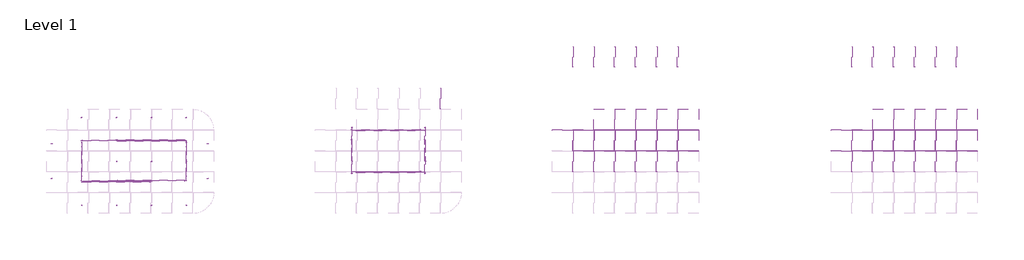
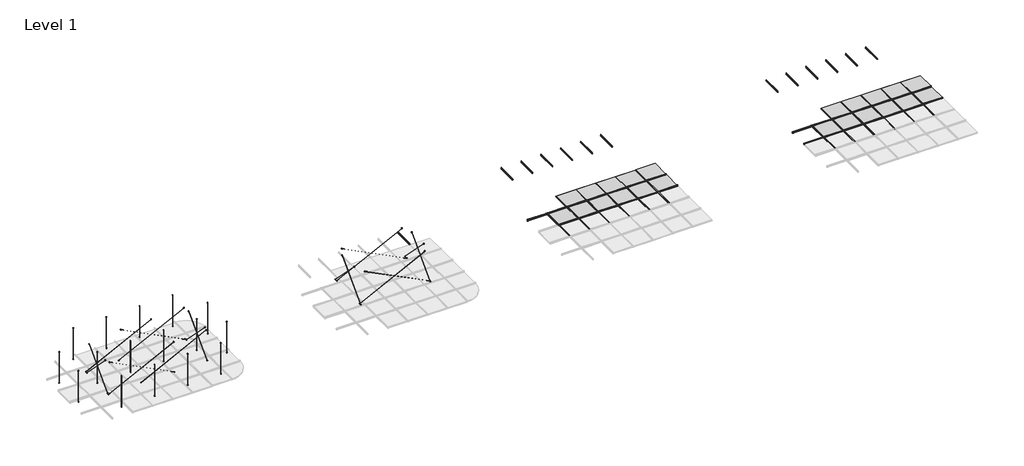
# One storey, part 3 of 3: 64 members, 34 proxies, 22 plates.
"""IFC4 building model written with IfcOpenShell, lengths in millimetres."""

from ifc_helpers import new_model, si_unit, origin, place, context, project, spatial, transform, mapped, element, save
from components import bracing_wire_set_bracing_wire_set_d6569037, bracing_wire_set_bracing_wire_set_f6dc7ab1, bracing_wire_set_shorter_bracing_wire_set_shorter_cc787730, bracing_wire_set_shorter_bracing_wire_set_shorter_f975b5e3, vertical_wire_set_vertical_wire_set_3cbeecf8, circular_mullion_88ff0090, circular_mullion_f9b5ef4a, circular_mullion_cross_tees_bf580255, plate_8db3f6ee

model = new_model("IFC4")

# Units and contexts
model_context = context("Model", 3, world=origin())
ifc_project = project(units=[si_unit("LENGTHUNIT", "METRE", prefix="MILLI")], contexts=[model_context])

# Site, building, storey
site = spatial("IfcSite", under=ifc_project)
building = spatial("IfcBuilding", under=site)
storey = spatial("IfcBuildingStorey", under=building, Name="Level 1", Elevation=0.0)

# Proxies
placement = place(None, origin())
bracing_wire_set_bracing_wire_set_shape = bracing_wire_set_bracing_wire_set_d6569037(model_context)
element("IfcBuildingElementProxy", 1, Name="Bracing Wire Set : Bracing Wire Set", ObjectType="Bracing Wire Set : Bracing Wire Set", at=placement, inside=storey, context=model_context, shape_type="MappedRepresentation", body=[
    mapped(bracing_wire_set_bracing_wire_set_shape, transform((-7814.053468, 7809.4254617, 2087.9107625), x_axis=(0.0, 1.0, 0.0), y_axis=(-1.0, 0.0, 0.0), z_axis=(0.0, 0.0, 1.0))),
])
element("IfcBuildingElementProxy", 2, Name="Bracing Wire Set : Bracing Wire Set", ObjectType="Bracing Wire Set : Bracing Wire Set", at=placement, inside=storey, context=model_context, shape_type="MappedRepresentation", body=[
    mapped(bracing_wire_set_bracing_wire_set_shape, transform((-6814.053468, 8957.8198234, 2087.9107625), x_axis=(0.0, 1.0, 0.0), y_axis=(-1.0, 0.0, 0.0), z_axis=(0.0, 0.0, 1.0))),
])
element("IfcBuildingElementProxy", 3, Name="Bracing Wire Set : Bracing Wire Set", ObjectType="Bracing Wire Set : Bracing Wire Set", at=placement, inside=storey, context=model_context, shape_type="MappedRepresentation", body=[
    mapped(bracing_wire_set_bracing_wire_set_shape, transform((35.973912, 8061.601658, 2087.9107625), x_axis=(0.0, 1.0, 0.0), y_axis=(-1.0, 0.0, 0.0), z_axis=(0.0, 0.0, 1.0))),
])
element("IfcBuildingElementProxy", 4, Name="Bracing Wire Set : Bracing Wire Set", ObjectType="Bracing Wire Set : Bracing Wire Set", at=placement, inside=storey, context=model_context, shape_type="MappedRepresentation", body=[
    mapped(bracing_wire_set_bracing_wire_set_shape, transform((-2064.2590918, 8479.2160981, 2087.9107625), x_axis=(0.0, -1.0, 0.0), y_axis=(1.0, 0.0, 0.0), z_axis=(0.0, 0.0, 1.0))),
])
element("IfcBuildingElementProxy", 5, Name="Bracing Wire Set : Bracing Wire Set", ObjectType="Bracing Wire Set : Bracing Wire Set", at=placement, inside=storey, context=model_context, shape_type="MappedRepresentation", body=[
    mapped(bracing_wire_set_bracing_wire_set_shape, transform((35.946532, 9264.5588511, 2087.9107625), x_axis=(0.0, 1.0, 0.0), y_axis=(-1.0, 0.0, 0.0), z_axis=(0.0, 0.0, 1.0))),
])
element("IfcBuildingElementProxy", 6, Name="Bracing Wire Set : Bracing Wire Set", ObjectType="Bracing Wire Set : Bracing Wire Set", at=placement, inside=storey, context=model_context, shape_type="MappedRepresentation", body=[
    mapped(bracing_wire_set_bracing_wire_set_shape, transform((-2064.2590918, 7278.1654847, 2087.9107625), x_axis=(0.0, -1.0, 0.0), y_axis=(1.0, 0.0, 0.0), z_axis=(0.0, 0.0, 1.0))),
])
bracing_wire_set_bracing_wire_set_2_shape = bracing_wire_set_bracing_wire_set_f6dc7ab1(model_context)
element("IfcBuildingElementProxy", 7, Name="Bracing Wire Set : Bracing Wire Set", ObjectType="Bracing Wire Set : Bracing Wire Set", at=placement, inside=storey, context=model_context, shape_type="MappedRepresentation", body=[
    mapped(bracing_wire_set_bracing_wire_set_2_shape, transform((-9814.5166379, 7780.7429888, 2087.9107625), x_axis=(0.0, 1.0, 0.0), y_axis=(-1.0, 0.0, 0.0), z_axis=(0.0, 0.0, 1.0))),
])
element("IfcBuildingElementProxy", 8, Name="Bracing Wire Set : Bracing Wire Set", ObjectType="Bracing Wire Set : Bracing Wire Set", at=placement, inside=storey, context=model_context, shape_type="MappedRepresentation", body=[
    mapped(bracing_wire_set_bracing_wire_set_2_shape, transform((-9814.5166379, 8971.3421281, 2087.9107625), x_axis=(0.0, 1.0, 0.0), y_axis=(-1.0, 0.0, 0.0), z_axis=(0.0, 0.0, 1.0))),
])
element("IfcBuildingElementProxy", 9, Name="Bracing Wire Set : Bracing Wire Set", ObjectType="Bracing Wire Set : Bracing Wire Set", at=placement, inside=storey, context=model_context, shape_type="MappedRepresentation", body=[
    mapped(bracing_wire_set_bracing_wire_set_2_shape, transform((-8814.5166379, 7822.3944763, 2087.9107625), x_axis=(0.0, 1.0, 0.0), y_axis=(-1.0, 0.0, 0.0), z_axis=(0.0, 0.0, 1.0))),
])
element("IfcBuildingElementProxy", 10, Name="Bracing Wire Set : Bracing Wire Set", ObjectType="Bracing Wire Set : Bracing Wire Set", at=placement, inside=storey, context=model_context, shape_type="MappedRepresentation", body=[
    mapped(bracing_wire_set_bracing_wire_set_2_shape, transform((-8814.5166379, 8985.9114612, 2087.9107625), x_axis=(0.0, 1.0, 0.0), y_axis=(-1.0, 0.0, 0.0), z_axis=(0.0, 0.0, 1.0))),
])
bracing_wire_set_shorter_bracing_wire_set_shorter_shape = bracing_wire_set_shorter_bracing_wire_set_shorter_cc787730(model_context)
element("IfcBuildingElementProxy", 11, Name="Bracing Wire Set shorter : Bracing Wire Set shorter", ObjectType="Bracing Wire Set shorter : Bracing Wire Set shorter", at=placement, inside=storey, context=model_context, shape_type="MappedRepresentation", body=[
    mapped(bracing_wire_set_shorter_bracing_wire_set_shorter_shape, transform((-9413.905381, 7424.5966625, 2087.9107625), x_axis=(1.0, 0.0, 0.0), y_axis=(0.0, 1.0, 0.0), z_axis=(0.0, 0.0, 1.0))),
])
element("IfcBuildingElementProxy", 12, Name="Bracing Wire Set shorter : Bracing Wire Set shorter", ObjectType="Bracing Wire Set shorter : Bracing Wire Set shorter", at=placement, inside=storey, context=model_context, shape_type="MappedRepresentation", body=[
    mapped(bracing_wire_set_shorter_bracing_wire_set_shorter_shape, transform((-6413.8740602, 7424.5966625, 2087.9107625), x_axis=(1.0, 0.0, 0.0), y_axis=(0.0, 1.0, 0.0), z_axis=(0.0, 0.0, 1.0))),
])
element("IfcBuildingElementProxy", 13, Name="Bracing Wire Set shorter : Bracing Wire Set shorter", ObjectType="Bracing Wire Set shorter : Bracing Wire Set shorter", at=placement, inside=storey, context=model_context, shape_type="MappedRepresentation", body=[
    mapped(bracing_wire_set_shorter_bracing_wire_set_shorter_shape, transform((-2464.3841447, 8955.2071374, 2087.9107625), x_axis=(-1.0, 0.0, 0.0), y_axis=(0.0, -1.0, 0.0), z_axis=(0.0, 0.0, 1.0))),
])
element("IfcBuildingElementProxy", 14, Name="Bracing Wire Set shorter : Bracing Wire Set shorter", ObjectType="Bracing Wire Set shorter : Bracing Wire Set shorter", at=placement, inside=storey, context=model_context, shape_type="MappedRepresentation", body=[
    mapped(bracing_wire_set_shorter_bracing_wire_set_shorter_shape, transform((-1663.905381, 7627.5783741, 2087.9107625), x_axis=(1.0, 0.0, 0.0), y_axis=(0.0, 1.0, 0.0), z_axis=(0.0, 0.0, 1.0))),
])
element("IfcBuildingElementProxy", 15, Name="Bracing Wire Set shorter : Bracing Wire Set shorter", ObjectType="Bracing Wire Set shorter : Bracing Wire Set shorter", at=placement, inside=storey, context=model_context, shape_type="MappedRepresentation", body=[
    mapped(bracing_wire_set_shorter_bracing_wire_set_shorter_shape, transform((-364.3865994, 8955.2071374, 2087.9107625), x_axis=(-1.0, 0.0, 0.0), y_axis=(0.0, -1.0, 0.0), z_axis=(0.0, 0.0, 1.0))),
])
element("IfcBuildingElementProxy", 16, Name="Bracing Wire Set shorter : Bracing Wire Set shorter", ObjectType="Bracing Wire Set shorter : Bracing Wire Set shorter", at=placement, inside=storey, context=model_context, shape_type="MappedRepresentation", body=[
    mapped(bracing_wire_set_shorter_bracing_wire_set_shorter_shape, transform((436.0921643, 7627.5783741, 2087.9107625), x_axis=(1.0, 0.0, 0.0), y_axis=(0.0, 1.0, 0.0), z_axis=(0.0, 0.0, 1.0))),
])
bracing_wire_set_shorter_bracing_wire_set_shorter_2_shape = bracing_wire_set_shorter_bracing_wire_set_shorter_f975b5e3(model_context)
element("IfcBuildingElementProxy", 17, Name="Bracing Wire Set shorter : Bracing Wire Set shorter", ObjectType="Bracing Wire Set shorter : Bracing Wire Set shorter", at=placement, inside=storey, context=model_context, shape_type="MappedRepresentation", body=[
    mapped(bracing_wire_set_shorter_bracing_wire_set_shorter_2_shape, transform((-9413.905381, 8517.7524646, 2087.9107625), x_axis=(1.0, 0.0, 0.0), y_axis=(0.0, 1.0, 0.0), z_axis=(0.0, 0.0, 1.0))),
])
element("IfcBuildingElementProxy", 18, Name="Bracing Wire Set shorter : Bracing Wire Set shorter", ObjectType="Bracing Wire Set shorter : Bracing Wire Set shorter", at=placement, inside=storey, context=model_context, shape_type="MappedRepresentation", body=[
    mapped(bracing_wire_set_shorter_bracing_wire_set_shorter_2_shape, transform((-6413.8740602, 8517.7524646, 2087.9107625), x_axis=(1.0, 0.0, 0.0), y_axis=(0.0, 1.0, 0.0), z_axis=(0.0, 0.0, 1.0))),
])
vertical_wire_set_vertical_wire_set_shape = vertical_wire_set_vertical_wire_set_3cbeecf8(model_context)
element("IfcBuildingElementProxy", 19, Name="Vertical Wire Set : Vertical Wire Set", ObjectType="Vertical Wire Set : Vertical Wire Set", at=placement, inside=storey, context=model_context, shape_type="MappedRepresentation", body=[
    mapped(vertical_wire_set_vertical_wire_set_shape, transform((-9814.240742, 8832.3362115, 2087.9107625), x_axis=(0.0, -1.0, 0.0), y_axis=(1.0, 0.0, 0.0), z_axis=(0.0, 0.0, 1.0))),
])
element("IfcBuildingElementProxy", 20, Name="Vertical Wire Set : Vertical Wire Set", ObjectType="Vertical Wire Set : Vertical Wire Set", at=placement, inside=storey, context=model_context, shape_type="MappedRepresentation", body=[
    mapped(vertical_wire_set_vertical_wire_set_shape, transform((-9814.240742, 6312.3362115, 2087.9107625), x_axis=(0.0, -1.0, 0.0), y_axis=(1.0, 0.0, 0.0), z_axis=(0.0, 0.0, 1.0))),
])
element("IfcBuildingElementProxy", 21, Name="Vertical Wire Set : Vertical Wire Set", ObjectType="Vertical Wire Set : Vertical Wire Set", at=placement, inside=storey, context=model_context, shape_type="MappedRepresentation", body=[
    mapped(vertical_wire_set_vertical_wire_set_shape, transform((-9814.240742, 7572.3362115, 2087.9107625), x_axis=(0.0, -1.0, 0.0), y_axis=(1.0, 0.0, 0.0), z_axis=(0.0, 0.0, 1.0))),
])
element("IfcBuildingElementProxy", 22, Name="Vertical Wire Set : Vertical Wire Set", ObjectType="Vertical Wire Set : Vertical Wire Set", at=placement, inside=storey, context=model_context, shape_type="MappedRepresentation", body=[
    mapped(vertical_wire_set_vertical_wire_set_shape, transform((-8814.240742, 8832.3362115, 2087.9107625), x_axis=(0.0, -1.0, 0.0), y_axis=(1.0, 0.0, 0.0), z_axis=(0.0, 0.0, 1.0))),
])
element("IfcBuildingElementProxy", 23, Name="Vertical Wire Set : Vertical Wire Set", ObjectType="Vertical Wire Set : Vertical Wire Set", at=placement, inside=storey, context=model_context, shape_type="MappedRepresentation", body=[
    mapped(vertical_wire_set_vertical_wire_set_shape, transform((-8814.240742, 6312.3362115, 2087.9107625), x_axis=(0.0, -1.0, 0.0), y_axis=(1.0, 0.0, 0.0), z_axis=(0.0, 0.0, 1.0))),
])
element("IfcBuildingElementProxy", 24, Name="Vertical Wire Set : Vertical Wire Set", ObjectType="Vertical Wire Set : Vertical Wire Set", at=placement, inside=storey, context=model_context, shape_type="MappedRepresentation", body=[
    mapped(vertical_wire_set_vertical_wire_set_shape, transform((-8814.240742, 7572.3362115, 2087.9107625), x_axis=(0.0, -1.0, 0.0), y_axis=(1.0, 0.0, 0.0), z_axis=(0.0, 0.0, 1.0))),
])
element("IfcBuildingElementProxy", 25, Name="Vertical Wire Set : Vertical Wire Set", ObjectType="Vertical Wire Set : Vertical Wire Set", at=placement, inside=storey, context=model_context, shape_type="MappedRepresentation", body=[
    mapped(vertical_wire_set_vertical_wire_set_shape, transform((-7813.540742, 8832.3362115, 2087.9107625), x_axis=(0.0, -1.0, 0.0), y_axis=(1.0, 0.0, 0.0), z_axis=(0.0, 0.0, 1.0))),
])
element("IfcBuildingElementProxy", 26, Name="Vertical Wire Set : Vertical Wire Set", ObjectType="Vertical Wire Set : Vertical Wire Set", at=placement, inside=storey, context=model_context, shape_type="MappedRepresentation", body=[
    mapped(vertical_wire_set_vertical_wire_set_shape, transform((-7813.540742, 6312.3362115, 2087.9107625), x_axis=(0.0, -1.0, 0.0), y_axis=(1.0, 0.0, 0.0), z_axis=(0.0, 0.0, 1.0))),
])
element("IfcBuildingElementProxy", 27, Name="Vertical Wire Set : Vertical Wire Set", ObjectType="Vertical Wire Set : Vertical Wire Set", at=placement, inside=storey, context=model_context, shape_type="MappedRepresentation", body=[
    mapped(vertical_wire_set_vertical_wire_set_shape, transform((-7813.540742, 7572.3362115, 2087.9107625), x_axis=(0.0, -1.0, 0.0), y_axis=(1.0, 0.0, 0.0), z_axis=(0.0, 0.0, 1.0))),
])
element("IfcBuildingElementProxy", 28, Name="Vertical Wire Set : Vertical Wire Set", ObjectType="Vertical Wire Set : Vertical Wire Set", at=placement, inside=storey, context=model_context, shape_type="MappedRepresentation", body=[
    mapped(vertical_wire_set_vertical_wire_set_shape, transform((-6813.540742, 8832.3362115, 2087.9107625), x_axis=(0.0, -1.0, 0.0), y_axis=(1.0, 0.0, 0.0), z_axis=(0.0, 0.0, 1.0))),
])
element("IfcBuildingElementProxy", 29, Name="Vertical Wire Set : Vertical Wire Set", ObjectType="Vertical Wire Set : Vertical Wire Set", at=placement, inside=storey, context=model_context, shape_type="MappedRepresentation", body=[
    mapped(vertical_wire_set_vertical_wire_set_shape, transform((-6813.540742, 6312.3362115, 2087.9107625), x_axis=(0.0, -1.0, 0.0), y_axis=(1.0, 0.0, 0.0), z_axis=(0.0, 0.0, 1.0))),
])
element("IfcBuildingElementProxy", 30, Name="Vertical Wire Set : Vertical Wire Set", ObjectType="Vertical Wire Set : Vertical Wire Set", at=placement, inside=storey, context=model_context, shape_type="MappedRepresentation", body=[
    mapped(vertical_wire_set_vertical_wire_set_shape, transform((-6813.540742, 7572.3362115, 2087.9107625), x_axis=(0.0, -1.0, 0.0), y_axis=(1.0, 0.0, 0.0), z_axis=(0.0, 0.0, 1.0))),
])
element("IfcBuildingElementProxy", 31, Name="Vertical Wire Set : Vertical Wire Set", ObjectType="Vertical Wire Set : Vertical Wire Set", at=placement, inside=storey, context=model_context, shape_type="MappedRepresentation", body=[
    mapped(vertical_wire_set_vertical_wire_set_shape, transform((-5789.9953997, 8480.8944678, 2087.9107625), x_axis=(1.0, 0.0, 0.0), y_axis=(0.0, 1.0, 0.0), z_axis=(0.0, 0.0, 1.0))),
])
element("IfcBuildingElementProxy", 32, Name="Vertical Wire Set : Vertical Wire Set", ObjectType="Vertical Wire Set : Vertical Wire Set", at=placement, inside=storey, context=model_context, shape_type="MappedRepresentation", body=[
    mapped(vertical_wire_set_vertical_wire_set_shape, transform((-5789.9953997, 7480.8944678, 2087.9107625), x_axis=(1.0, 0.0, 0.0), y_axis=(0.0, 1.0, 0.0), z_axis=(0.0, 0.0, 1.0))),
])
element("IfcBuildingElementProxy", 33, Name="Vertical Wire Set : Vertical Wire Set", ObjectType="Vertical Wire Set : Vertical Wire Set", at=placement, inside=storey, context=model_context, shape_type="MappedRepresentation", body=[
    mapped(vertical_wire_set_vertical_wire_set_shape, transform((-10269.9953997, 8480.8944678, 2087.9107625), x_axis=(1.0, 0.0, 0.0), y_axis=(0.0, 1.0, 0.0), z_axis=(0.0, 0.0, 1.0))),
])
element("IfcBuildingElementProxy", 34, Name="Vertical Wire Set : Vertical Wire Set", ObjectType="Vertical Wire Set : Vertical Wire Set", at=placement, inside=storey, context=model_context, shape_type="MappedRepresentation", body=[
    mapped(vertical_wire_set_vertical_wire_set_shape, transform((-10269.9953997, 7480.8944678, 2087.9107625), x_axis=(1.0, 0.0, 0.0), y_axis=(0.0, 1.0, 0.0), z_axis=(0.0, 0.0, 1.0))),
])

# Members
circular_mullion_shape = circular_mullion_88ff0090(model_context)
element("IfcMember", 35, ObjectType="Circular Mullion : Main Runners", at=placement, inside=storey, context=model_context, shape_type="MappedRepresentation", body=[
    mapped(circular_mullion_shape, transform((4292.6080689, 8276.1970288, 2001.0), x_axis=(0.0, 1.0, 0.0), y_axis=(0.0, 0.0, -1.0), z_axis=(-1.0, 0.0, 0.0))),
])
element("IfcMember", 36, ObjectType="Circular Mullion : Main Runners", at=placement, inside=storey, context=model_context, shape_type="MappedRepresentation", body=[
    mapped(circular_mullion_shape, transform((4892.6080689, 8276.1970288, 2001.0), x_axis=(0.0, 1.0, 0.0), y_axis=(0.0, 0.0, -1.0), z_axis=(-1.0, 0.0, 0.0))),
])
element("IfcMember", 37, ObjectType="Circular Mullion : Main Runners", at=placement, inside=storey, context=model_context, shape_type="MappedRepresentation", body=[
    mapped(circular_mullion_shape, transform((5492.6080689, 8276.1970288, 2001.0), x_axis=(0.0, 1.0, 0.0), y_axis=(0.0, 0.0, -1.0), z_axis=(-1.0, 0.0, 0.0))),
])
element("IfcMember", 38, ObjectType="Circular Mullion : Main Runners", at=placement, inside=storey, context=model_context, shape_type="MappedRepresentation", body=[
    mapped(circular_mullion_shape, transform((6092.6080689, 8276.1970288, 2001.0), x_axis=(0.0, 1.0, 0.0), y_axis=(0.0, 0.0, -1.0), z_axis=(-1.0, 0.0, 0.0))),
])
element("IfcMember", 39, ObjectType="Circular Mullion : Main Runners", at=placement, inside=storey, context=model_context, shape_type="MappedRepresentation", body=[
    mapped(circular_mullion_shape, transform((6692.6080689, 8276.1970288, 2001.0), x_axis=(0.0, 1.0, 0.0), y_axis=(0.0, 0.0, -1.0), z_axis=(-1.0, 0.0, 0.0))),
])
element("IfcMember", 40, ObjectType="Circular Mullion : Main Runners", at=placement, inside=storey, context=model_context, shape_type="MappedRepresentation", body=[
    mapped(circular_mullion_shape, transform((7292.6080689, 8276.1970288, 2001.0), x_axis=(0.0, 1.0, 0.0), y_axis=(0.0, 0.0, -1.0), z_axis=(-1.0, 0.0, 0.0))),
])
element("IfcMember", 41, ObjectType="Circular Mullion : Main Runners", at=placement, inside=storey, context=model_context, shape_type="MappedRepresentation", body=[
    mapped(circular_mullion_shape, transform((4292.6080689, 8876.1970288, 2001.0), x_axis=(0.0, 1.0, 0.0), y_axis=(0.0, 0.0, -1.0), z_axis=(-1.0, 0.0, 0.0))),
])
element("IfcMember", 42, ObjectType="Circular Mullion : Main Runners", at=placement, inside=storey, context=model_context, shape_type="MappedRepresentation", body=[
    mapped(circular_mullion_shape, transform((4892.6080689, 8876.1970288, 2001.0), x_axis=(0.0, 1.0, 0.0), y_axis=(0.0, 0.0, -1.0), z_axis=(-1.0, 0.0, 0.0))),
])
element("IfcMember", 43, ObjectType="Circular Mullion : Main Runners", at=placement, inside=storey, context=model_context, shape_type="MappedRepresentation", body=[
    mapped(circular_mullion_shape, transform((5492.6080689, 8876.1970288, 2001.0), x_axis=(0.0, 1.0, 0.0), y_axis=(0.0, 0.0, -1.0), z_axis=(-1.0, 0.0, 0.0))),
])
element("IfcMember", 44, ObjectType="Circular Mullion : Main Runners", at=placement, inside=storey, context=model_context, shape_type="MappedRepresentation", body=[
    mapped(circular_mullion_shape, transform((6092.6080689, 8876.1970288, 2001.0), x_axis=(0.0, 1.0, 0.0), y_axis=(0.0, 0.0, -1.0), z_axis=(-1.0, 0.0, 0.0))),
])
element("IfcMember", 45, ObjectType="Circular Mullion : Main Runners", at=placement, inside=storey, context=model_context, shape_type="MappedRepresentation", body=[
    mapped(circular_mullion_shape, transform((6692.6080689, 8876.1970288, 2001.0), x_axis=(0.0, 1.0, 0.0), y_axis=(0.0, 0.0, -1.0), z_axis=(-1.0, 0.0, 0.0))),
])
element("IfcMember", 46, ObjectType="Circular Mullion : Main Runners", at=placement, inside=storey, context=model_context, shape_type="MappedRepresentation", body=[
    mapped(circular_mullion_shape, transform((7292.6080689, 8876.1970288, 2001.0), x_axis=(0.0, 1.0, 0.0), y_axis=(0.0, 0.0, -1.0), z_axis=(-1.0, 0.0, 0.0))),
])
element("IfcMember", 47, ObjectType="Circular Mullion : Main Runners", at=placement, inside=storey, context=model_context, shape_type="MappedRepresentation", body=[
    mapped(circular_mullion_shape, transform((12292.6080689, 8276.1970288, 2001.0), x_axis=(0.0, 1.0, 0.0), y_axis=(0.0, 0.0, -1.0), z_axis=(-1.0, 0.0, 0.0))),
])
element("IfcMember", 48, ObjectType="Circular Mullion : Main Runners", at=placement, inside=storey, context=model_context, shape_type="MappedRepresentation", body=[
    mapped(circular_mullion_shape, transform((12892.6080689, 8276.1970288, 2001.0), x_axis=(0.0, 1.0, 0.0), y_axis=(0.0, 0.0, -1.0), z_axis=(-1.0, 0.0, 0.0))),
])
element("IfcMember", 49, ObjectType="Circular Mullion : Main Runners", at=placement, inside=storey, context=model_context, shape_type="MappedRepresentation", body=[
    mapped(circular_mullion_shape, transform((13492.6080689, 8276.1970288, 2001.0), x_axis=(0.0, 1.0, 0.0), y_axis=(0.0, 0.0, -1.0), z_axis=(-1.0, 0.0, 0.0))),
])
element("IfcMember", 50, ObjectType="Circular Mullion : Main Runners", at=placement, inside=storey, context=model_context, shape_type="MappedRepresentation", body=[
    mapped(circular_mullion_shape, transform((14092.6080689, 8276.1970288, 2001.0), x_axis=(0.0, 1.0, 0.0), y_axis=(0.0, 0.0, -1.0), z_axis=(-1.0, 0.0, 0.0))),
])
element("IfcMember", 51, ObjectType="Circular Mullion : Main Runners", at=placement, inside=storey, context=model_context, shape_type="MappedRepresentation", body=[
    mapped(circular_mullion_shape, transform((14692.6080689, 8276.1970288, 2001.0), x_axis=(0.0, 1.0, 0.0), y_axis=(0.0, 0.0, -1.0), z_axis=(-1.0, 0.0, 0.0))),
])
element("IfcMember", 52, ObjectType="Circular Mullion : Main Runners", at=placement, inside=storey, context=model_context, shape_type="MappedRepresentation", body=[
    mapped(circular_mullion_shape, transform((15292.6080689, 8276.1970288, 2001.0), x_axis=(0.0, 1.0, 0.0), y_axis=(0.0, 0.0, -1.0), z_axis=(-1.0, 0.0, 0.0))),
])
element("IfcMember", 53, ObjectType="Circular Mullion : Main Runners", at=placement, inside=storey, context=model_context, shape_type="MappedRepresentation", body=[
    mapped(circular_mullion_shape, transform((12292.6080689, 8876.1970288, 2001.0), x_axis=(0.0, 1.0, 0.0), y_axis=(0.0, 0.0, -1.0), z_axis=(-1.0, 0.0, 0.0))),
])
element("IfcMember", 54, ObjectType="Circular Mullion : Main Runners", at=placement, inside=storey, context=model_context, shape_type="MappedRepresentation", body=[
    mapped(circular_mullion_shape, transform((12892.6080689, 8876.1970288, 2001.0), x_axis=(0.0, 1.0, 0.0), y_axis=(0.0, 0.0, -1.0), z_axis=(-1.0, 0.0, 0.0))),
])
element("IfcMember", 55, ObjectType="Circular Mullion : Main Runners", at=placement, inside=storey, context=model_context, shape_type="MappedRepresentation", body=[
    mapped(circular_mullion_shape, transform((13492.6080689, 8876.1970288, 2001.0), x_axis=(0.0, 1.0, 0.0), y_axis=(0.0, 0.0, -1.0), z_axis=(-1.0, 0.0, 0.0))),
])
element("IfcMember", 56, ObjectType="Circular Mullion : Main Runners", at=placement, inside=storey, context=model_context, shape_type="MappedRepresentation", body=[
    mapped(circular_mullion_shape, transform((14092.6080689, 8876.1970288, 2001.0), x_axis=(0.0, 1.0, 0.0), y_axis=(0.0, 0.0, -1.0), z_axis=(-1.0, 0.0, 0.0))),
])
element("IfcMember", 57, ObjectType="Circular Mullion : Main Runners", at=placement, inside=storey, context=model_context, shape_type="MappedRepresentation", body=[
    mapped(circular_mullion_shape, transform((14692.6080689, 8876.1970288, 2001.0), x_axis=(0.0, 1.0, 0.0), y_axis=(0.0, 0.0, -1.0), z_axis=(-1.0, 0.0, 0.0))),
])
element("IfcMember", 58, ObjectType="Circular Mullion : Main Runners", at=placement, inside=storey, context=model_context, shape_type="MappedRepresentation", body=[
    mapped(circular_mullion_shape, transform((15292.6080689, 8876.1970288, 2001.0), x_axis=(0.0, 1.0, 0.0), y_axis=(0.0, 0.0, -1.0), z_axis=(-1.0, 0.0, 0.0))),
])
circular_mullion_2_shape = circular_mullion_f9b5ef4a(model_context)
element("IfcMember", 59, ObjectType="Circular Mullion : Main Runners", at=placement, inside=storey, context=model_context, shape_type="MappedRepresentation", body=[
    mapped(circular_mullion_2_shape, transform((3680.7018185, 8876.1970288, 2001.0), x_axis=(0.0, 1.0, 0.0), y_axis=(0.0, 0.0, -1.0), z_axis=(-1.0, 0.0, 0.0))),
])
element("IfcMember", 60, ObjectType="Circular Mullion : Main Runners", at=placement, inside=storey, context=model_context, shape_type="MappedRepresentation", body=[
    mapped(circular_mullion_2_shape, transform((11680.7018185, 8276.1970288, 2001.0), x_axis=(0.0, 1.0, 0.0), y_axis=(0.0, 0.0, -1.0), z_axis=(-1.0, 0.0, 0.0))),
])
element("IfcMember", 61, ObjectType="Circular Mullion : Main Runners", at=placement, inside=storey, context=model_context, shape_type="MappedRepresentation", body=[
    mapped(circular_mullion_2_shape, transform((11680.7018185, 8876.1970288, 2001.0), x_axis=(0.0, 1.0, 0.0), y_axis=(0.0, 0.0, -1.0), z_axis=(-1.0, 0.0, 0.0))),
])
circular_mullion_cross_tees_shape = circular_mullion_cross_tees_bf580255(model_context)
element("IfcMember", 62, ObjectType="Circular Mullion : Cross Tees", at=placement, inside=storey, context=model_context, shape_type="MappedRepresentation", body=[
    mapped(circular_mullion_cross_tees_shape, transform((4280.7018189, 8276.1970288, 2001.0), x_axis=(1.0, 0.0, 0.0), y_axis=(0.0, 0.0, -1.0), z_axis=(0.0, 1.0, 0.0))),
])
element("IfcMember", 63, ObjectType="Circular Mullion : Cross Tees", at=placement, inside=storey, context=model_context, shape_type="MappedRepresentation", body=[
    mapped(circular_mullion_cross_tees_shape, transform((4880.7018189, 8276.1970288, 2001.0), x_axis=(1.0, 0.0, 0.0), y_axis=(0.0, 0.0, -1.0), z_axis=(0.0, 1.0, 0.0))),
])
element("IfcMember", 64, ObjectType="Circular Mullion : Cross Tees", at=placement, inside=storey, context=model_context, shape_type="MappedRepresentation", body=[
    mapped(circular_mullion_cross_tees_shape, transform((5480.7018189, 8276.1970288, 2001.0), x_axis=(1.0, 0.0, 0.0), y_axis=(0.0, 0.0, -1.0), z_axis=(0.0, 1.0, 0.0))),
])
element("IfcMember", 65, ObjectType="Circular Mullion : Cross Tees", at=placement, inside=storey, context=model_context, shape_type="MappedRepresentation", body=[
    mapped(circular_mullion_cross_tees_shape, transform((6080.7018189, 8276.1970288, 2001.0), x_axis=(1.0, 0.0, 0.0), y_axis=(0.0, 0.0, -1.0), z_axis=(0.0, 1.0, 0.0))),
])
element("IfcMember", 66, ObjectType="Circular Mullion : Cross Tees", at=placement, inside=storey, context=model_context, shape_type="MappedRepresentation", body=[
    mapped(circular_mullion_cross_tees_shape, transform((6680.7018189, 8276.1970288, 2001.0), x_axis=(1.0, 0.0, 0.0), y_axis=(0.0, 0.0, -1.0), z_axis=(0.0, 1.0, 0.0))),
])
element("IfcMember", 67, ObjectType="Circular Mullion : Cross Tees", at=placement, inside=storey, context=model_context, shape_type="MappedRepresentation", body=[
    mapped(circular_mullion_cross_tees_shape, transform((7280.7018189, 8276.1970288, 2001.0), x_axis=(1.0, 0.0, 0.0), y_axis=(0.0, 0.0, -1.0), z_axis=(0.0, 1.0, 0.0))),
])
element("IfcMember", 68, ObjectType="Circular Mullion : Cross Tees", at=placement, inside=storey, context=model_context, shape_type="MappedRepresentation", body=[
    mapped(circular_mullion_cross_tees_shape, transform((4280.7018189, 8876.1970288, 2001.0), x_axis=(1.0, 0.0, 0.0), y_axis=(0.0, 0.0, -1.0), z_axis=(0.0, 1.0, 0.0))),
])
element("IfcMember", 69, ObjectType="Circular Mullion : Cross Tees", at=placement, inside=storey, context=model_context, shape_type="MappedRepresentation", body=[
    mapped(circular_mullion_cross_tees_shape, transform((4880.7018189, 8876.1970288, 2001.0), x_axis=(1.0, 0.0, 0.0), y_axis=(0.0, 0.0, -1.0), z_axis=(0.0, 1.0, 0.0))),
])
element("IfcMember", 70, ObjectType="Circular Mullion : Cross Tees", at=placement, inside=storey, context=model_context, shape_type="MappedRepresentation", body=[
    mapped(circular_mullion_cross_tees_shape, transform((5480.7018189, 8876.1970288, 2001.0), x_axis=(1.0, 0.0, 0.0), y_axis=(0.0, 0.0, -1.0), z_axis=(0.0, 1.0, 0.0))),
])
element("IfcMember", 71, ObjectType="Circular Mullion : Cross Tees", at=placement, inside=storey, context=model_context, shape_type="MappedRepresentation", body=[
    mapped(circular_mullion_cross_tees_shape, transform((6080.7018189, 8876.1970288, 2001.0), x_axis=(1.0, 0.0, 0.0), y_axis=(0.0, 0.0, -1.0), z_axis=(0.0, 1.0, 0.0))),
])
element("IfcMember", 72, ObjectType="Circular Mullion : Cross Tees", at=placement, inside=storey, context=model_context, shape_type="MappedRepresentation", body=[
    mapped(circular_mullion_cross_tees_shape, transform((6680.7018189, 8876.1970288, 2001.0), x_axis=(1.0, 0.0, 0.0), y_axis=(0.0, 0.0, -1.0), z_axis=(0.0, 1.0, 0.0))),
])
element("IfcMember", 73, ObjectType="Circular Mullion : Cross Tees", at=placement, inside=storey, context=model_context, shape_type="MappedRepresentation", body=[
    mapped(circular_mullion_cross_tees_shape, transform((7280.7018189, 8876.1970288, 2001.0), x_axis=(1.0, 0.0, 0.0), y_axis=(0.0, 0.0, -1.0), z_axis=(0.0, 1.0, 0.0))),
])
element("IfcMember", 74, ObjectType="Circular Mullion : Cross Tees", at=placement, inside=storey, context=model_context, shape_type="MappedRepresentation", body=[
    mapped(circular_mullion_cross_tees_shape, transform((12280.7018189, 8276.1970288, 2001.0), x_axis=(1.0, 0.0, 0.0), y_axis=(0.0, 0.0, -1.0), z_axis=(0.0, 1.0, 0.0))),
])
element("IfcMember", 75, ObjectType="Circular Mullion : Cross Tees", at=placement, inside=storey, context=model_context, shape_type="MappedRepresentation", body=[
    mapped(circular_mullion_cross_tees_shape, transform((12880.7018189, 8276.1970288, 2001.0), x_axis=(1.0, 0.0, 0.0), y_axis=(0.0, 0.0, -1.0), z_axis=(0.0, 1.0, 0.0))),
])
element("IfcMember", 76, ObjectType="Circular Mullion : Cross Tees", at=placement, inside=storey, context=model_context, shape_type="MappedRepresentation", body=[
    mapped(circular_mullion_cross_tees_shape, transform((13480.7018189, 8276.1970288, 2001.0), x_axis=(1.0, 0.0, 0.0), y_axis=(0.0, 0.0, -1.0), z_axis=(0.0, 1.0, 0.0))),
])
element("IfcMember", 77, ObjectType="Circular Mullion : Cross Tees", at=placement, inside=storey, context=model_context, shape_type="MappedRepresentation", body=[
    mapped(circular_mullion_cross_tees_shape, transform((14080.7018189, 8276.1970288, 2001.0), x_axis=(1.0, 0.0, 0.0), y_axis=(0.0, 0.0, -1.0), z_axis=(0.0, 1.0, 0.0))),
])
element("IfcMember", 78, ObjectType="Circular Mullion : Cross Tees", at=placement, inside=storey, context=model_context, shape_type="MappedRepresentation", body=[
    mapped(circular_mullion_cross_tees_shape, transform((14680.7018189, 8276.1970288, 2001.0), x_axis=(1.0, 0.0, 0.0), y_axis=(0.0, 0.0, -1.0), z_axis=(0.0, 1.0, 0.0))),
])
element("IfcMember", 79, ObjectType="Circular Mullion : Cross Tees", at=placement, inside=storey, context=model_context, shape_type="MappedRepresentation", body=[
    mapped(circular_mullion_cross_tees_shape, transform((15280.7018189, 8276.1970288, 2001.0), x_axis=(1.0, 0.0, 0.0), y_axis=(0.0, 0.0, -1.0), z_axis=(0.0, 1.0, 0.0))),
])
element("IfcMember", 80, ObjectType="Circular Mullion : Cross Tees", at=placement, inside=storey, context=model_context, shape_type="MappedRepresentation", body=[
    mapped(circular_mullion_cross_tees_shape, transform((12280.7018189, 8876.1970288, 2001.0), x_axis=(1.0, 0.0, 0.0), y_axis=(0.0, 0.0, -1.0), z_axis=(0.0, 1.0, 0.0))),
])
element("IfcMember", 81, ObjectType="Circular Mullion : Cross Tees", at=placement, inside=storey, context=model_context, shape_type="MappedRepresentation", body=[
    mapped(circular_mullion_cross_tees_shape, transform((12880.7018189, 8876.1970288, 2001.0), x_axis=(1.0, 0.0, 0.0), y_axis=(0.0, 0.0, -1.0), z_axis=(0.0, 1.0, 0.0))),
])
element("IfcMember", 82, ObjectType="Circular Mullion : Cross Tees", at=placement, inside=storey, context=model_context, shape_type="MappedRepresentation", body=[
    mapped(circular_mullion_cross_tees_shape, transform((13480.7018189, 8876.1970288, 2001.0), x_axis=(1.0, 0.0, 0.0), y_axis=(0.0, 0.0, -1.0), z_axis=(0.0, 1.0, 0.0))),
])
element("IfcMember", 83, ObjectType="Circular Mullion : Cross Tees", at=placement, inside=storey, context=model_context, shape_type="MappedRepresentation", body=[
    mapped(circular_mullion_cross_tees_shape, transform((14080.7018189, 8876.1970288, 2001.0), x_axis=(1.0, 0.0, 0.0), y_axis=(0.0, 0.0, -1.0), z_axis=(0.0, 1.0, 0.0))),
])
element("IfcMember", 84, ObjectType="Circular Mullion : Cross Tees", at=placement, inside=storey, context=model_context, shape_type="MappedRepresentation", body=[
    mapped(circular_mullion_cross_tees_shape, transform((14680.7018189, 8876.1970288, 2001.0), x_axis=(1.0, 0.0, 0.0), y_axis=(0.0, 0.0, -1.0), z_axis=(0.0, 1.0, 0.0))),
])
element("IfcMember", 85, ObjectType="Circular Mullion : Cross Tees", at=placement, inside=storey, context=model_context, shape_type="MappedRepresentation", body=[
    mapped(circular_mullion_cross_tees_shape, transform((15280.7018189, 8876.1970288, 2001.0), x_axis=(1.0, 0.0, 0.0), y_axis=(0.0, 0.0, -1.0), z_axis=(0.0, 1.0, 0.0))),
])
element("IfcMember", 86, ObjectType="Circular Mullion : Cross Tees", at=placement, inside=storey, context=model_context, shape_type="MappedRepresentation", body=[
    mapped(circular_mullion_cross_tees_shape, transform((480.7018189, 10076.1970288, 2001.0), x_axis=(1.0, 0.0, 0.0), y_axis=(0.0, 0.0, -1.0), z_axis=(0.0, 1.0, 0.0))),
])
element("IfcMember", 87, ObjectType="Circular Mullion : Cross Tees", at=placement, inside=storey, context=model_context, shape_type="MappedRepresentation", body=[
    mapped(circular_mullion_cross_tees_shape, transform((4280.7018189, 11276.1970288, 2001.0), x_axis=(1.0, 0.0, 0.0), y_axis=(0.0, 0.0, -1.0), z_axis=(0.0, 1.0, 0.0))),
])
element("IfcMember", 88, ObjectType="Circular Mullion : Cross Tees", at=placement, inside=storey, context=model_context, shape_type="MappedRepresentation", body=[
    mapped(circular_mullion_cross_tees_shape, transform((4880.7018189, 11276.1970288, 2001.0), x_axis=(1.0, 0.0, 0.0), y_axis=(0.0, 0.0, -1.0), z_axis=(0.0, 1.0, 0.0))),
])
element("IfcMember", 89, ObjectType="Circular Mullion : Cross Tees", at=placement, inside=storey, context=model_context, shape_type="MappedRepresentation", body=[
    mapped(circular_mullion_cross_tees_shape, transform((5480.7018189, 11276.1970288, 2001.0), x_axis=(1.0, 0.0, 0.0), y_axis=(0.0, 0.0, -1.0), z_axis=(0.0, 1.0, 0.0))),
])
element("IfcMember", 90, ObjectType="Circular Mullion : Cross Tees", at=placement, inside=storey, context=model_context, shape_type="MappedRepresentation", body=[
    mapped(circular_mullion_cross_tees_shape, transform((6080.7018189, 11276.1970288, 2001.0), x_axis=(1.0, 0.0, 0.0), y_axis=(0.0, 0.0, -1.0), z_axis=(0.0, 1.0, 0.0))),
])
element("IfcMember", 91, ObjectType="Circular Mullion : Cross Tees", at=placement, inside=storey, context=model_context, shape_type="MappedRepresentation", body=[
    mapped(circular_mullion_cross_tees_shape, transform((6680.7018189, 11276.1970288, 2001.0), x_axis=(1.0, 0.0, 0.0), y_axis=(0.0, 0.0, -1.0), z_axis=(0.0, 1.0, 0.0))),
])
element("IfcMember", 92, ObjectType="Circular Mullion : Cross Tees", at=placement, inside=storey, context=model_context, shape_type="MappedRepresentation", body=[
    mapped(circular_mullion_cross_tees_shape, transform((7280.7018189, 11276.1970288, 2001.0), x_axis=(1.0, 0.0, 0.0), y_axis=(0.0, 0.0, -1.0), z_axis=(0.0, 1.0, 0.0))),
])
element("IfcMember", 93, ObjectType="Circular Mullion : Cross Tees", at=placement, inside=storey, context=model_context, shape_type="MappedRepresentation", body=[
    mapped(circular_mullion_cross_tees_shape, transform((12280.7018189, 11276.1970288, 2001.0), x_axis=(1.0, 0.0, 0.0), y_axis=(0.0, 0.0, -1.0), z_axis=(0.0, 1.0, 0.0))),
])
element("IfcMember", 94, ObjectType="Circular Mullion : Cross Tees", at=placement, inside=storey, context=model_context, shape_type="MappedRepresentation", body=[
    mapped(circular_mullion_cross_tees_shape, transform((12880.7018189, 11276.1970288, 2001.0), x_axis=(1.0, 0.0, 0.0), y_axis=(0.0, 0.0, -1.0), z_axis=(0.0, 1.0, 0.0))),
])
element("IfcMember", 95, ObjectType="Circular Mullion : Cross Tees", at=placement, inside=storey, context=model_context, shape_type="MappedRepresentation", body=[
    mapped(circular_mullion_cross_tees_shape, transform((13480.7018189, 11276.1970288, 2001.0), x_axis=(1.0, 0.0, 0.0), y_axis=(0.0, 0.0, -1.0), z_axis=(0.0, 1.0, 0.0))),
])
element("IfcMember", 96, ObjectType="Circular Mullion : Cross Tees", at=placement, inside=storey, context=model_context, shape_type="MappedRepresentation", body=[
    mapped(circular_mullion_cross_tees_shape, transform((14080.7018189, 11276.1970288, 2001.0), x_axis=(1.0, 0.0, 0.0), y_axis=(0.0, 0.0, -1.0), z_axis=(0.0, 1.0, 0.0))),
])
element("IfcMember", 97, ObjectType="Circular Mullion : Cross Tees", at=placement, inside=storey, context=model_context, shape_type="MappedRepresentation", body=[
    mapped(circular_mullion_cross_tees_shape, transform((14680.7018189, 11276.1970288, 2001.0), x_axis=(1.0, 0.0, 0.0), y_axis=(0.0, 0.0, -1.0), z_axis=(0.0, 1.0, 0.0))),
])
element("IfcMember", 98, ObjectType="Circular Mullion : Cross Tees", at=placement, inside=storey, context=model_context, shape_type="MappedRepresentation", body=[
    mapped(circular_mullion_cross_tees_shape, transform((15280.7018189, 11276.1970288, 2001.0), x_axis=(1.0, 0.0, 0.0), y_axis=(0.0, 0.0, -1.0), z_axis=(0.0, 1.0, 0.0))),
])

# Plates
plate_shape = plate_8db3f6ee(model_context)
element("IfcPlate", 99, ObjectType="Rockfon Blanka X : Rockfon Blanka X", at=placement, inside=storey, context=model_context, shape_type="MappedRepresentation", body=[
    mapped(plate_shape, transform((4580.7018189, 8276.1970288, 2001.0), x_axis=(1.0, 0.0, 0.0), y_axis=(0.0, 0.0, -1.0), z_axis=(0.0, 1.0, 0.0))),
])
element("IfcPlate", 100, ObjectType="Rockfon Blanka X : Rockfon Blanka X", at=placement, inside=storey, context=model_context, shape_type="MappedRepresentation", body=[
    mapped(plate_shape, transform((5180.7018189, 8276.1970288, 2001.0), x_axis=(1.0, 0.0, 0.0), y_axis=(0.0, 0.0, -1.0), z_axis=(0.0, 1.0, 0.0))),
])
element("IfcPlate", 101, ObjectType="Rockfon Blanka X : Rockfon Blanka X", at=placement, inside=storey, context=model_context, shape_type="MappedRepresentation", body=[
    mapped(plate_shape, transform((5780.7018189, 8276.1970288, 2001.0), x_axis=(1.0, 0.0, 0.0), y_axis=(0.0, 0.0, -1.0), z_axis=(0.0, 1.0, 0.0))),
])
element("IfcPlate", 102, ObjectType="Rockfon Blanka X : Rockfon Blanka X", at=placement, inside=storey, context=model_context, shape_type="MappedRepresentation", body=[
    mapped(plate_shape, transform((6380.7018189, 8276.1970288, 2001.0), x_axis=(1.0, 0.0, 0.0), y_axis=(0.0, 0.0, -1.0), z_axis=(0.0, 1.0, 0.0))),
])
element("IfcPlate", 103, ObjectType="Rockfon Blanka X : Rockfon Blanka X", at=placement, inside=storey, context=model_context, shape_type="MappedRepresentation", body=[
    mapped(plate_shape, transform((6980.7018189, 8276.1970288, 2001.0), x_axis=(1.0, 0.0, 0.0), y_axis=(0.0, 0.0, -1.0), z_axis=(0.0, 1.0, 0.0))),
])
element("IfcPlate", 104, ObjectType="Rockfon Blanka X : Rockfon Blanka X", at=placement, inside=storey, context=model_context, shape_type="MappedRepresentation", body=[
    mapped(plate_shape, transform((7580.7018189, 8276.1970288, 2001.0), x_axis=(1.0, 0.0, 0.0), y_axis=(0.0, 0.0, -1.0), z_axis=(0.0, 1.0, 0.0))),
])
element("IfcPlate", 105, ObjectType="Rockfon Blanka X : Rockfon Blanka X", at=placement, inside=storey, context=model_context, shape_type="MappedRepresentation", body=[
    mapped(plate_shape, transform((5180.7018189, 8876.1970288, 2001.0), x_axis=(1.0, 0.0, 0.0), y_axis=(0.0, 0.0, -1.0), z_axis=(0.0, 1.0, 0.0))),
])
element("IfcPlate", 106, ObjectType="Rockfon Blanka X : Rockfon Blanka X", at=placement, inside=storey, context=model_context, shape_type="MappedRepresentation", body=[
    mapped(plate_shape, transform((5780.7018189, 8876.1970288, 2001.0), x_axis=(1.0, 0.0, 0.0), y_axis=(0.0, 0.0, -1.0), z_axis=(0.0, 1.0, 0.0))),
])
element("IfcPlate", 107, ObjectType="Rockfon Blanka X : Rockfon Blanka X", at=placement, inside=storey, context=model_context, shape_type="MappedRepresentation", body=[
    mapped(plate_shape, transform((6380.7018189, 8876.1970288, 2001.0), x_axis=(1.0, 0.0, 0.0), y_axis=(0.0, 0.0, -1.0), z_axis=(0.0, 1.0, 0.0))),
])
element("IfcPlate", 108, ObjectType="Rockfon Blanka X : Rockfon Blanka X", at=placement, inside=storey, context=model_context, shape_type="MappedRepresentation", body=[
    mapped(plate_shape, transform((6980.7018189, 8876.1970288, 2001.0), x_axis=(1.0, 0.0, 0.0), y_axis=(0.0, 0.0, -1.0), z_axis=(0.0, 1.0, 0.0))),
])
element("IfcPlate", 109, ObjectType="Rockfon Blanka X : Rockfon Blanka X", at=placement, inside=storey, context=model_context, shape_type="MappedRepresentation", body=[
    mapped(plate_shape, transform((7580.7018189, 8876.1970288, 2001.0), x_axis=(1.0, 0.0, 0.0), y_axis=(0.0, 0.0, -1.0), z_axis=(0.0, 1.0, 0.0))),
])
element("IfcPlate", 110, ObjectType="Rockfon Blanka X : Rockfon Blanka X", at=placement, inside=storey, context=model_context, shape_type="MappedRepresentation", body=[
    mapped(plate_shape, transform((12580.7018189, 8276.1970288, 2001.0), x_axis=(1.0, 0.0, 0.0), y_axis=(0.0, 0.0, -1.0), z_axis=(0.0, 1.0, 0.0))),
])
element("IfcPlate", 111, ObjectType="Rockfon Blanka X : Rockfon Blanka X", at=placement, inside=storey, context=model_context, shape_type="MappedRepresentation", body=[
    mapped(plate_shape, transform((13180.7018189, 8276.1970288, 2001.0), x_axis=(1.0, 0.0, 0.0), y_axis=(0.0, 0.0, -1.0), z_axis=(0.0, 1.0, 0.0))),
])
element("IfcPlate", 112, ObjectType="Rockfon Blanka X : Rockfon Blanka X", at=placement, inside=storey, context=model_context, shape_type="MappedRepresentation", body=[
    mapped(plate_shape, transform((13780.7018189, 8276.1970288, 2001.0), x_axis=(1.0, 0.0, 0.0), y_axis=(0.0, 0.0, -1.0), z_axis=(0.0, 1.0, 0.0))),
])
element("IfcPlate", 113, ObjectType="Rockfon Blanka X : Rockfon Blanka X", at=placement, inside=storey, context=model_context, shape_type="MappedRepresentation", body=[
    mapped(plate_shape, transform((14380.7018189, 8276.1970288, 2001.0), x_axis=(1.0, 0.0, 0.0), y_axis=(0.0, 0.0, -1.0), z_axis=(0.0, 1.0, 0.0))),
])
element("IfcPlate", 114, ObjectType="Rockfon Blanka X : Rockfon Blanka X", at=placement, inside=storey, context=model_context, shape_type="MappedRepresentation", body=[
    mapped(plate_shape, transform((14980.7018189, 8276.1970288, 2001.0), x_axis=(1.0, 0.0, 0.0), y_axis=(0.0, 0.0, -1.0), z_axis=(0.0, 1.0, 0.0))),
])
element("IfcPlate", 115, ObjectType="Rockfon Blanka X : Rockfon Blanka X", at=placement, inside=storey, context=model_context, shape_type="MappedRepresentation", body=[
    mapped(plate_shape, transform((15580.7018189, 8276.1970288, 2001.0), x_axis=(1.0, 0.0, 0.0), y_axis=(0.0, 0.0, -1.0), z_axis=(0.0, 1.0, 0.0))),
])
element("IfcPlate", 116, ObjectType="Rockfon Blanka X : Rockfon Blanka X", at=placement, inside=storey, context=model_context, shape_type="MappedRepresentation", body=[
    mapped(plate_shape, transform((13180.7018189, 8876.1970288, 2001.0), x_axis=(1.0, 0.0, 0.0), y_axis=(0.0, 0.0, -1.0), z_axis=(0.0, 1.0, 0.0))),
])
element("IfcPlate", 117, ObjectType="Rockfon Blanka X : Rockfon Blanka X", at=placement, inside=storey, context=model_context, shape_type="MappedRepresentation", body=[
    mapped(plate_shape, transform((13780.7018189, 8876.1970288, 2001.0), x_axis=(1.0, 0.0, 0.0), y_axis=(0.0, 0.0, -1.0), z_axis=(0.0, 1.0, 0.0))),
])
element("IfcPlate", 118, ObjectType="Rockfon Blanka X : Rockfon Blanka X", at=placement, inside=storey, context=model_context, shape_type="MappedRepresentation", body=[
    mapped(plate_shape, transform((14380.7018189, 8876.1970288, 2001.0), x_axis=(1.0, 0.0, 0.0), y_axis=(0.0, 0.0, -1.0), z_axis=(0.0, 1.0, 0.0))),
])
element("IfcPlate", 119, ObjectType="Rockfon Blanka X : Rockfon Blanka X", at=placement, inside=storey, context=model_context, shape_type="MappedRepresentation", body=[
    mapped(plate_shape, transform((14980.7018189, 8876.1970288, 2001.0), x_axis=(1.0, 0.0, 0.0), y_axis=(0.0, 0.0, -1.0), z_axis=(0.0, 1.0, 0.0))),
])
element("IfcPlate", 120, ObjectType="Rockfon Blanka X : Rockfon Blanka X", at=placement, inside=storey, context=model_context, shape_type="MappedRepresentation", body=[
    mapped(plate_shape, transform((15580.7018189, 8876.1970288, 2001.0), x_axis=(1.0, 0.0, 0.0), y_axis=(0.0, 0.0, -1.0), z_axis=(0.0, 1.0, 0.0))),
])

save(model, "model.ifc")
